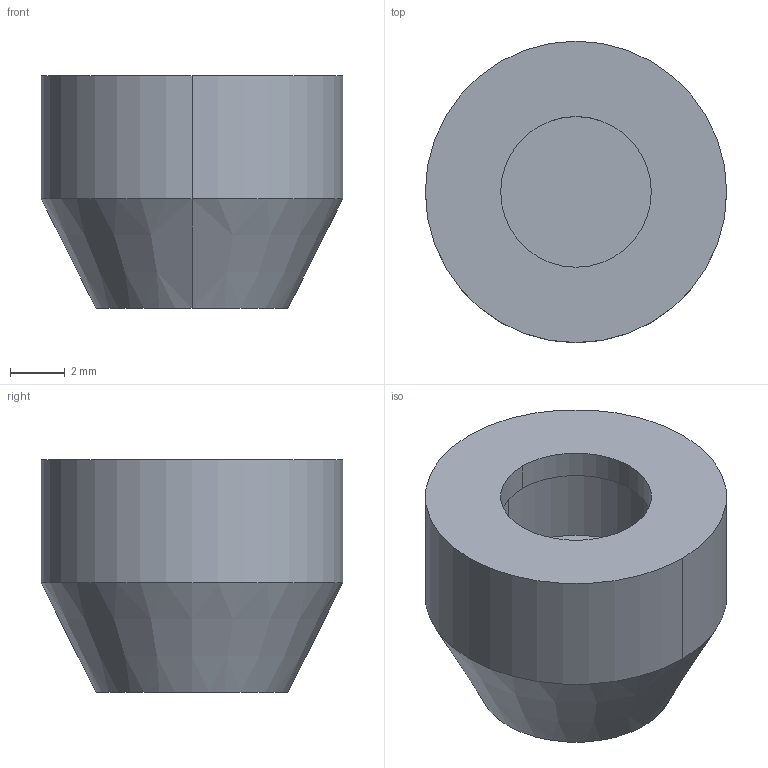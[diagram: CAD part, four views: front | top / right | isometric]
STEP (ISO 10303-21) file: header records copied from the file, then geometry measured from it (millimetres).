
FILE_DESCRIPTION (( 'STEP AP203' ), '1' );
FILE_NAME ('rpc-m4.STEP', '2021-10-26T05:46:15', ( '' ), ( '' ), 'SwSTEP 2.0', 'SolidWorks 2020', '' );
FILE_SCHEMA (( 'CONFIG_CONTROL_DESIGN' ));
Length unit declared in the file: millimetre
Products named in the file (1): rpc-m4
Bounding box: 11 x 11 x 8.5 mm (x, y, z)
Volume: 539.4 mm3; surface area: 532.6 mm2
Topology: 1 solids, 1 shells, 12 faces, 22 edges, 14 vertices
Faces by surface type: cylinder 6, plane 4, cone 2
Entity records: 381 total; most frequent: DIRECTION 62, CARTESIAN_POINT 49, ORIENTED_EDGE 44, AXIS2_PLACEMENT_3D 27, EDGE_CURVE 22, EDGE_LOOP 14, CIRCLE 14, VERTEX_POINT 14
